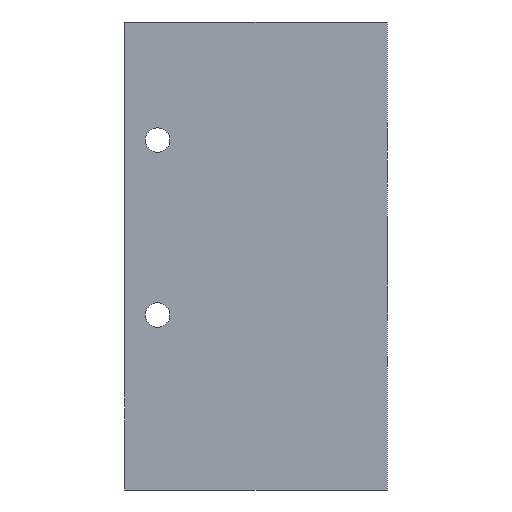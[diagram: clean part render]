
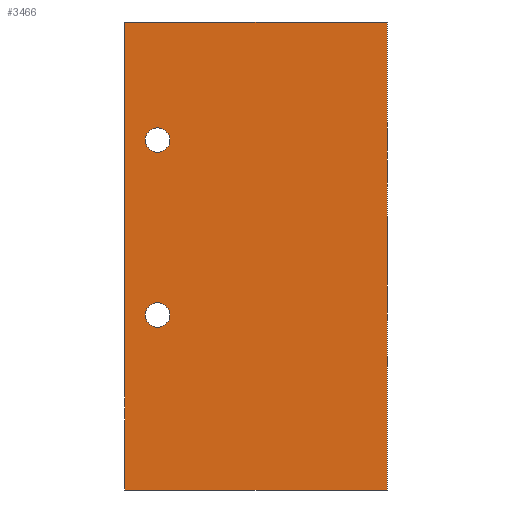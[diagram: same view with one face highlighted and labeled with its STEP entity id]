
A CAD part, front view. The second image highlights one B-rep face of the part: STEP entity #3466.
In plain terms, the highlighted planar face has unit normal (0, -1, 0).
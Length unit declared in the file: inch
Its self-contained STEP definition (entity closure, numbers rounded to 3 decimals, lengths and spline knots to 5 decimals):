
#160=CIRCLE('',#3661,0.14);
#162=CIRCLE('',#3664,0.14);
#361=FACE_BOUND('',#927,.T.);
#362=FACE_BOUND('',#928,.T.);
#363=FACE_BOUND('',#929,.T.);
#927=EDGE_LOOP('',(#2836));
#928=EDGE_LOOP('',(#2837));
#929=EDGE_LOOP('',(#2838,#2839,#2840,#2841));
#1237=LINE('',#5766,#1461);
#1239=LINE('',#5859,#1463);
#1243=LINE('',#6094,#1467);
#1245=LINE('',#6116,#1469);
#1461=VECTOR('',#4211,5.3498);
#1463=VECTOR('',#4283,5.3498);
#1467=VECTOR('',#4365,3.);
#1469=VECTOR('',#4393,3.);
#1654=VERTEX_POINT('',#5759);
#1657=VERTEX_POINT('',#5764);
#1678=VERTEX_POINT('',#5856);
#1679=VERTEX_POINT('',#5858);
#1690=VERTEX_POINT('',#6018);
#1692=VERTEX_POINT('',#6023);
#2047=EDGE_CURVE('',#1657,#1654,#1237,.T.);
#2068=EDGE_CURVE('',#1679,#1678,#1239,.T.);
#2082=EDGE_CURVE('',#1690,#1690,#160,.T.);
#2084=EDGE_CURVE('',#1692,#1692,#162,.T.);
#2098=EDGE_CURVE('',#1679,#1657,#1243,.T.);
#2107=EDGE_CURVE('',#1678,#1654,#1245,.T.);
#2836=ORIENTED_EDGE('',*,*,#2082,.T.);
#2837=ORIENTED_EDGE('',*,*,#2084,.T.);
#2838=ORIENTED_EDGE('',*,*,#2107,.T.);
#2839=ORIENTED_EDGE('',*,*,#2047,.F.);
#2840=ORIENTED_EDGE('',*,*,#2098,.F.);
#2841=ORIENTED_EDGE('',*,*,#2068,.T.);
#3128=PLANE('',#3732);
#3466=ADVANCED_FACE('',(#361,#362,#363),#3128,.T.);
#3661=AXIS2_PLACEMENT_3D('',#6019,#4312,#4313);
#3664=AXIS2_PLACEMENT_3D('',#6024,#4318,#4319);
#3732=AXIS2_PLACEMENT_3D('',#6163,#4458,#4459);
#4211=DIRECTION('',(0.,0.,1.));
#4283=DIRECTION('',(0.,0.,1.));
#4312=DIRECTION('center_axis',(0.,1.,0.));
#4313=DIRECTION('ref_axis',(1.,0.,0.));
#4318=DIRECTION('center_axis',(0.,1.,0.));
#4319=DIRECTION('ref_axis',(1.,0.,0.));
#4365=DIRECTION('',(-1.,0.,0.));
#4393=DIRECTION('',(-1.,0.,0.));
#4458=DIRECTION('center_axis',(0.,-1.,0.));
#4459=DIRECTION('ref_axis',(0.,0.,-1.));
#5759=CARTESIAN_POINT('',(-1.57,-1.,5.3498));
#5764=CARTESIAN_POINT('',(-1.57,-1.,0.));
#5766=CARTESIAN_POINT('',(-1.57,-1.,0.));
#5856=CARTESIAN_POINT('',(1.43,-1.,5.3498));
#5858=CARTESIAN_POINT('',(1.43,-1.,0.));
#5859=CARTESIAN_POINT('',(1.43,-1.,0.));
#6018=CARTESIAN_POINT('',(-1.055,-1.,4.));
#6019=CARTESIAN_POINT('Origin',(-1.195,-1.,4.));
#6023=CARTESIAN_POINT('',(-1.055,-1.,2.));
#6024=CARTESIAN_POINT('Origin',(-1.195,-1.,2.));
#6094=CARTESIAN_POINT('',(1.43,-1.,0.));
#6116=CARTESIAN_POINT('',(1.43,-1.,5.3498));
#6163=CARTESIAN_POINT('Origin',(1.43,-1.,0.));
